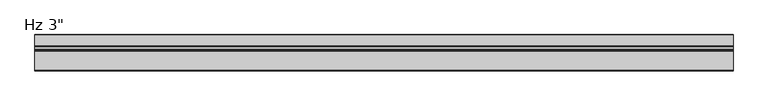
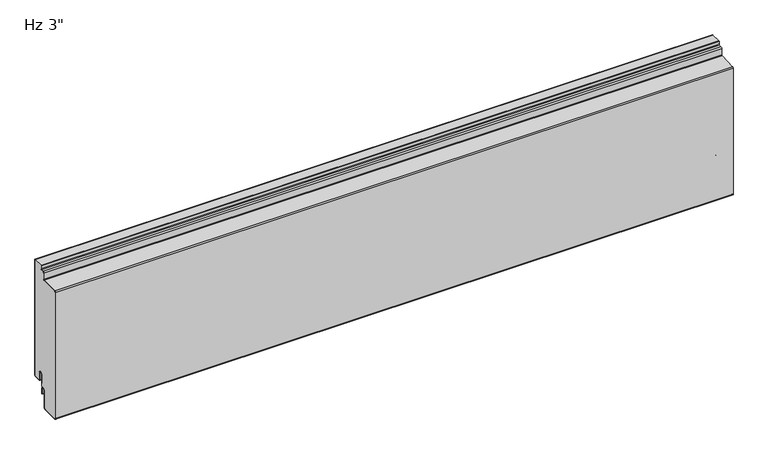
"""IFC4 building model written with IfcOpenShell, lengths in millimetres: plate geometry."""

from ifc_helpers import new_model, si_unit, point, frame, frame_2d, origin, place, context, project, spatial, polyline, circle_curve, trimmed, segment, composite_curve, outline, extrude, source, transform, mapped, element, save
from ifc_brep_helpers import plane_surface, cylinder_surface, revolved_surface, advanced_brep


def plate_ff97e2ff(model_context):
    return source(origin(), model_context, "Body", "SolidModel", [
        extrude(outline(composite_curve([segment(polyline([(-22.8122051, 259.7620957), (-22.8122051, 266.4), (-0.9997051, 266.4), (-0.9997051, 3.175)]), True, "CONTINUOUS"), segment(trimmed(circle_curve(frame_2d((-2.3809551, 3.175)), 1.38125), [point((-0.9997051, 3.175))], [point((-2.3809551, 1.79375))], False, "CARTESIAN"), True, "CONTINUOUS"), segment(polyline([(-2.3809551, 1.79375), (-15.0809548, 1.79375)]), True, "CONTINUOUS"), segment(trimmed(circle_curve(frame_2d((-15.0809548, 3.175)), 1.38125), [point((-15.0809548, 1.79375))], [point((-16.4622048, 3.175))], False, "CARTESIAN"), True, "CONTINUOUS"), segment(polyline([(-16.4622048, 3.175), (-16.4622048, 19.05)]), True, "CONTINUOUS"), segment(trimmed(circle_curve(frame_2d((-21.4309548, 19.05)), 4.96875), [point((-16.4622048, 19.05))], [point((-26.3997048, 19.05))], True, "CARTESIAN"), True, "CONTINUOUS"), segment(polyline([(-26.3997048, 19.05), (-26.3997048, -6.9378562), (-30.952521, -6.9378562)]), True, "CONTINUOUS"), segment(trimmed(circle_curve(frame_2d((-30.952521, -11.9060719)), 4.9682158), [point((-30.952521, -6.9378562))], [point((-35.9207368, -11.9060719))], True, "CARTESIAN"), True, "CONTINUOUS"), segment(polyline([(-35.9207368, -11.9060719), (-35.9207368, -49.8864779)]), True, "CONTINUOUS"), segment(trimmed(circle_curve(frame_2d((-37.3041083, -49.8864779)), 1.3833715), [point((-35.9207368, -49.8864779))], [point((-37.2046907, -51.2662724))], False, "CARTESIAN"), True, "CONTINUOUS"), segment(polyline([(-37.2046907, -51.2662724), (-73.8625914, -51.8500263)]), True, "CONTINUOUS"), segment(trimmed(circle_curve(frame_2d((-73.8185889, -50.4693162)), 1.3814111), [point((-73.8625914, -51.8500263))], [point((-75.2, -50.4693162))], False, "CARTESIAN"), True, "CONTINUOUS"), segment(polyline([(-75.2, -50.4693162), (-75.2, 236.8593805)]), True, "CONTINUOUS"), segment(trimmed(circle_curve(frame_2d((-73.8180277, 236.8593805)), 1.3819723), [point((-75.2, 236.8593805))], [point((-73.9050684, 238.2386091))], False, "CARTESIAN"), True, "CONTINUOUS"), segment(polyline([(-73.9050684, 238.2386091), (-34.8138889, 238.9809457)]), True, "CONTINUOUS"), segment(trimmed(circle_curve(frame_2d((-34.9308757, 241.5793906)), 2.601077), [point((-34.8138889, 238.9809457))], [point((-32.3297987, 241.5793906))], True, "CARTESIAN"), True, "CONTINUOUS"), segment(polyline([(-32.3297987, 241.5793906), (-32.3297987, 255.4979098)]), True, "CONTINUOUS"), segment(trimmed(circle_curve(frame_2d((-30.9520524, 255.4979098)), 1.3777463), [point((-32.3297987, 255.4979098))], [point((-31.0261331, 256.873663))], False, "CARTESIAN"), True, "CONTINUOUS"), segment(polyline([(-31.0261331, 256.873663), (-25.2631616, 257.1782012)]), True, "CONTINUOUS"), segment(trimmed(circle_curve(frame_2d((-25.3997048, 259.7620957)), 2.5874998), [point((-25.2631616, 257.1782012))], [point((-22.8122051, 259.7620957))], True, "CARTESIAN"), True, "CONTINUOUS")], self_intersect=False)), frame((-730.0, 0.0, 0.0), z_axis=(1.0, 0.0, 0.0), x_axis=(0.0, 1.0, 0.0)), (0.0, 0.0, 1.0), 1460.0),
        extrude(outline(composite_curve([segment(polyline([(-25.4, 0.79375), (-26.4, 0.79375), (-26.4, 19.05)]), True, "CONTINUOUS"), segment(trimmed(circle_curve(frame_2d((-21.43125, 19.05)), 4.96875), [point((-26.4, 19.05))], [point((-16.4625, 19.05))], False, "CARTESIAN"), True, "CONTINUOUS"), segment(polyline([(-16.4625, 19.05), (-16.4625, 3.175)]), True, "CONTINUOUS"), segment(trimmed(circle_curve(frame_2d((-15.08125, 3.175)), 1.38125), [point((-16.4625, 3.175))], [point((-15.08125, 1.79375))], True, "CARTESIAN"), True, "CONTINUOUS"), segment(polyline([(-15.08125, 1.79375), (-2.38125, 1.79375)]), True, "CONTINUOUS"), segment(trimmed(circle_curve(frame_2d((-2.38125, 3.175)), 1.38125), [point((-2.38125, 1.79375))], [point((-1.0, 3.175))], True, "CARTESIAN"), True, "CONTINUOUS"), segment(polyline([(-1.0, 3.175), (-1.0, 266.4), (0.0, 266.4), (0.0, 3.175)]), True, "CONTINUOUS"), segment(trimmed(circle_curve(frame_2d((-2.38125, 3.175)), 2.38125), [point((0.0, 3.175))], [point((-2.38125, 0.79375))], False, "CARTESIAN"), True, "CONTINUOUS"), segment(polyline([(-2.38125, 0.79375), (-15.08125, 0.79375)]), True, "CONTINUOUS"), segment(trimmed(circle_curve(frame_2d((-15.08125, 3.175)), 2.38125), [point((-15.08125, 0.79375))], [point((-17.4625, 3.175))], False, "CARTESIAN"), True, "CONTINUOUS"), segment(polyline([(-17.4625, 3.175), (-17.4625, 19.05)]), True, "CONTINUOUS"), segment(trimmed(circle_curve(frame_2d((-21.43125, 19.05)), 3.96875), [point((-17.4625, 19.05))], [point((-25.4, 19.05))], True, "CARTESIAN"), True, "CONTINUOUS"), segment(polyline([(-25.4, 19.05), (-25.4, 0.79375)]), True, "CONTINUOUS")], self_intersect=False)), frame((-730.0, 0.0, 0.0), z_axis=(1.0, 0.0, 0.0), x_axis=(0.0, 1.0, 0.0)), (0.0, 0.0, 1.0), 1460.0),
        advanced_brep(
        [(-730.0, -25.4, -23.2171875), (-730.0, -26.9875, -23.2171875), (-730.0, -26.9875, -11.90625), (-730.0, -34.9235365, -11.90625), (-730.0, -34.9235365, -49.8867763), (-730.0, -37.180907, -52.2655484), (-730.0, -73.8674722, -52.8501201), (-730.0, -76.2, -50.4693686), (-730.0, -76.2, 236.8615956), (-730.0, -73.943409, 239.2395804), (-730.0, -34.8409333, 239.9568264), (-730.0, -33.335518, 241.5432031), (-730.0, -33.335518, 255.4970298), (-730.0, -31.080058, 257.8740657), (-730.0, -25.3167321, 258.176781), (-730.0, -23.8125, 259.7620957), (-730.0, -23.8125, 266.4), (-730.0, -22.8125, 266.4), (-730.0, -22.8125, 259.7620957), (-730.0, -25.2643108, 257.178156), (-730.0, -31.0277025, 256.8755067), (-730.0, -32.3357231, 255.4969966), (-730.0, -32.3357231, 241.5432226), (-730.0, -34.8077585, 238.9573879), (-730.0, -73.9057453, 238.2401033), (-730.0, -75.2, 236.8615956), (-730.0, -75.2, -50.4693686), (-730.0, -73.730714, -51.8478244), (-730.0, -37.2049859, -51.2662724), (-730.0, -35.9213722, -49.9171557), (-730.0, -35.9213722, -11.90625), (-730.0, -25.9875, -11.90625), (-730.0, -26.19375, -13.49375), (-730.0, -25.4, -13.49375), (730.0, -25.4, -23.2171875), (730.0, -25.4, -13.49375), (730.0, -26.19375, -13.49375), (730.0, -25.9875, -11.90625), (730.0, -35.9213722, -11.90625), (730.0, -35.9213722, -49.9171557), (730.0, -37.2049859, -51.2662724), (730.0, -73.8628015, -51.8499275), (730.0, -75.1999873, -50.4693656), (730.0, -75.2, 236.8615956), (730.0, -73.9057453, 238.2401033), (730.0, -34.8077585, 238.9573879), (730.0, -32.3357231, 241.5432226), (730.0, -32.3357231, 255.4969966), (730.0, -31.0277025, 256.8755067), (730.0, -25.2643108, 257.178156), (730.0, -22.8125, 259.7620957), (730.0, -22.8125, 266.4), (730.0, -23.8125, 266.4), (730.0, -23.8125, 259.7620957), (730.0, -25.3167321, 258.176781), (730.0, -31.080058, 257.8740657), (730.0, -33.335518, 255.4970298), (730.0, -33.335518, 241.5432031), (730.0, -34.8409333, 239.9568264), (730.0, -73.943409, 239.2395804), (730.0, -76.2, 236.8615956), (730.0, -76.2, -50.4693686), (730.0, -73.8674722, -52.8501201), (730.0, -37.180907, -52.2655484), (730.0, -34.9235365, -49.8867763), (730.0, -34.9235365, -11.90625), (730.0, -26.9875, -11.90625), (730.0, -26.9875, -23.2171875)],
        [
            (0, 1, circle_curve(frame((-730.0, -26.19375, -23.2171875), z_axis=(-1.0, 0.0, 0.0), x_axis=(0.0, 0.0, -1.0)), 0.79375)),
            (1, 2),
            (2, 3, circle_curve(frame((-730.0, -30.9555183, -11.90625), z_axis=(1.0, 0.0, 0.0), x_axis=(0.0, 0.0, -1.0)), 3.9680183)),
            (3, 4),
            (4, 5, circle_curve(frame((-730.0, -37.3055732, -49.8867763), z_axis=(-1.0, 0.0, 0.0), x_axis=(0.0, 0.0, -1.0)), 2.3820366)),
            (5, 6),
            (6, 7, circle_curve(frame((-730.0, -73.81875, -50.4693686), z_axis=(-1.0, 0.0, 0.0), x_axis=(0.0, 0.0, -1.0)), 2.38125)),
            (7, 8),
            (8, 9, circle_curve(frame((-730.0, -73.81875, 236.8615956), z_axis=(-1.0, 0.0, 0.0), x_axis=(0.0, 0.0, -1.0)), 2.38125)),
            (9, 10),
            (10, 11, circle_curve(frame((-730.0, -34.9240718, 241.5432031), z_axis=(1.0, 0.0, 0.0), x_axis=(0.0, 0.0, -1.0)), 1.5885537)),
            (11, 12),
            (12, 13, circle_curve(frame((-730.0, -30.9552056, 255.4970298), z_axis=(-1.0, 0.0, 0.0), x_axis=(0.0, 0.0, -1.0)), 2.3803125)),
            (13, 14),
            (14, 15, circle_curve(frame((-730.0, -25.4, 259.7620957), z_axis=(1.0, 0.0, 0.0), x_axis=(0.0, 0.0, -1.0)), 1.5875)),
            (15, 16),
            (16, 17),
            (17, 18),
            (18, 19, circle_curve(frame((-730.0, -25.4, 259.7620957), z_axis=(-1.0, 0.0, 0.0), x_axis=(0.0, 0.0, -1.0)), 2.5875)),
            (19, 20),
            (20, 21, circle_curve(frame((-730.0, -30.9553137, 255.4969966), z_axis=(1.0, 0.0, 0.0), x_axis=(0.0, 0.0, -1.0)), 1.3804094)),
            (21, 22),
            (22, 23, circle_curve(frame((-730.0, -34.9241772, 241.5432226), z_axis=(-1.0, 0.0, 0.0), x_axis=(0.0, 0.0, -1.0)), 2.5884541)),
            (23, 24),
            (24, 25, circle_curve(frame((-730.0, -73.81875, 236.8615956), z_axis=(1.0, 0.0, 0.0), x_axis=(0.0, 0.0, -1.0)), 1.38125)),
            (25, 26),
            (26, 27, circle_curve(frame((-730.0, -73.8187219, -50.4693656), z_axis=(1.0, 0.0, 0.0), x_axis=(0.0, 0.0, -1.0)), 1.3812654)),
            (27, 28),
            (28, 29, circle_curve(frame((-730.0, -37.3044035, -49.8864779), z_axis=(1.0, 0.0, 0.0), x_axis=(0.0, 0.0, -1.0)), 1.3833715)),
            (29, 30),
            (30, 31, circle_curve(frame((-730.0, -30.9544361, -11.90625), z_axis=(-1.0, 0.0, 0.0), x_axis=(0.0, 0.0, -1.0)), 4.9669361)),
            (31, 32),
            (32, 33),
            (33, 0),
            (34, 35),
            (35, 36),
            (36, 37),
            (37, 38, circle_curve(frame((730.0, -30.9544361, -11.90625), z_axis=(1.0, 0.0, 0.0), x_axis=(0.0, 0.0, -1.0)), 4.9669361)),
            (38, 39),
            (39, 40, circle_curve(frame((730.0, -37.3044035, -49.8864779), z_axis=(-1.0, 0.0, 0.0), x_axis=(0.0, 0.0, -1.0)), 1.3833715)),
            (40, 41),
            (41, 42, circle_curve(frame((730.0, -73.8187219, -50.4693656), z_axis=(-1.0, 0.0, 0.0), x_axis=(0.0, 0.0, -1.0)), 1.3812654)),
            (42, 43),
            (43, 44, circle_curve(frame((730.0, -73.81875, 236.8615956), z_axis=(-1.0, 0.0, 0.0), x_axis=(0.0, 0.0, -1.0)), 1.38125)),
            (44, 45),
            (45, 46, circle_curve(frame((730.0, -34.9241772, 241.5432226), z_axis=(1.0, 0.0, 0.0), x_axis=(0.0, 0.0, -1.0)), 2.5884541)),
            (46, 47),
            (47, 48, circle_curve(frame((730.0, -30.9553137, 255.4969966), z_axis=(-1.0, 0.0, 0.0), x_axis=(0.0, 0.0, -1.0)), 1.3804094)),
            (48, 49),
            (49, 50, circle_curve(frame((730.0, -25.4, 259.7620957), z_axis=(1.0, 0.0, 0.0), x_axis=(0.0, 0.0, -1.0)), 2.5875)),
            (50, 51),
            (51, 52),
            (52, 53),
            (53, 54, circle_curve(frame((730.0, -25.4, 259.7620957), z_axis=(-1.0, 0.0, 0.0), x_axis=(0.0, 0.0, -1.0)), 1.5875)),
            (54, 55),
            (55, 56, circle_curve(frame((730.0, -30.9552056, 255.4970298), z_axis=(1.0, 0.0, 0.0), x_axis=(0.0, 0.0, -1.0)), 2.3803125)),
            (56, 57),
            (57, 58, circle_curve(frame((730.0, -34.9240718, 241.5432031), z_axis=(-1.0, 0.0, 0.0), x_axis=(0.0, 0.0, -1.0)), 1.5885537)),
            (58, 59),
            (59, 60, circle_curve(frame((730.0, -73.81875, 236.8615956), z_axis=(1.0, 0.0, 0.0), x_axis=(0.0, 0.0, -1.0)), 2.38125)),
            (60, 61),
            (61, 62, circle_curve(frame((730.0, -73.81875, -50.4693686), z_axis=(1.0, 0.0, 0.0), x_axis=(0.0, 0.0, -1.0)), 2.38125)),
            (62, 63),
            (63, 64, circle_curve(frame((730.0, -37.3055732, -49.8867763), z_axis=(1.0, 0.0, 0.0), x_axis=(0.0, 0.0, -1.0)), 2.3820366)),
            (64, 65),
            (65, 66, circle_curve(frame((730.0, -30.9555183, -11.90625), z_axis=(-1.0, 0.0, 0.0), x_axis=(0.0, 0.0, -1.0)), 3.9680183)),
            (66, 67),
            (67, 34, circle_curve(frame((730.0, -26.19375, -23.2171875), z_axis=(1.0, 0.0, 0.0), x_axis=(0.0, 0.0, -1.0)), 0.79375)),
            (16, 52),
            (51, 17),
            (1, 67),
            (66, 2),
            (65, 3),
            (64, 4),
            (5, 63),
            (62, 6),
            (33, 35),
            (34, 0),
            (25, 43),
            (42, 26),
            (61, 7),
            (60, 8),
            (28, 40),
            (39, 29),
            (27, 41),
            (32, 36),
            (31, 37),
            (38, 30),
            (9, 59),
            (58, 10),
            (11, 57),
            (56, 12),
            (24, 44),
            (22, 46),
            (45, 23),
            (21, 47),
            (55, 13),
            (54, 14),
            (53, 15),
            (20, 48),
            (18, 50),
            (49, 19),
        ],
        [
            plane_surface(frame((-730.0, -76.2, 152.4), z_axis=(-1.0, 0.0, 0.0), x_axis=(0.0, -1.0, 0.0))),
            plane_surface(frame((730.0, -76.2, 152.4), z_axis=(1.0, 0.0, 0.0), x_axis=(0.0, -1.0, 0.0))),
            plane_surface(frame((730.0, 10.0, 266.4), z_axis=(0.0, 0.0, 1.0), x_axis=(-1.0, 0.0, 0.0))),
            plane_surface(frame((-730.0, -26.9875, -11.90625), z_axis=(0.0, -1.0, 0.0), x_axis=(1.0, 0.0, 0.0))),
            revolved_surface(polyline([(730.0, -30.9555183, -15.8742683), (-730.0, -30.9555183, -15.8742683)]), (-730.0, -30.9555183, -11.90625), (1.0, 0.0, 0.0)),
            plane_surface(frame((-730.0, -34.9235365, -49.8867763), z_axis=(0.0, 1.0, 0.0), x_axis=(1.0, 0.0, 0.0))),
            plane_surface(frame((-730.0, -73.8674722, -52.8501201), z_axis=(0.0, 0.015932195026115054, -0.999873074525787), x_axis=(1.0, 0.0, 0.0))),
            plane_surface(frame((-730.0, -25.4, -23.2171875), z_axis=(0.0, 1.0, 0.0), x_axis=(1.0, 0.0, 0.0))),
            cylinder_surface(frame((-730.0, -26.19375, -23.2171875), z_axis=(-1.0, 0.0, 0.0), x_axis=(0.0, 0.0, -1.0)), 0.79375),
            plane_surface(frame((-730.0, -75.2, -50.4693686), z_axis=(0.0, 1.0, 0.0), x_axis=(1.0, 0.0, 0.0))),
            cylinder_surface(frame((-730.0, -73.81875, -50.4693686), z_axis=(-1.0, 0.0, 0.0), x_axis=(0.0, 0.0, -1.0)), 2.38125),
            plane_surface(frame((-730.0, -76.2, 236.8615956), z_axis=(0.0, -1.0, 0.0), x_axis=(1.0, 0.0, 0.0))),
            revolved_surface(polyline([(730.0, -37.3044035, -51.269849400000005), (-730.0, -37.3044035, -51.269849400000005)]), (-730.0, -37.3044035, -49.8864779), (1.0, 0.0, 0.0)),
            plane_surface(frame((-730.0, -37.2049859, -51.2662724), z_axis=(0.0, -0.015919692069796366, 0.9998732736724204), x_axis=(1.0, 0.0, 0.0))),
            revolved_surface(polyline([(730.0, -73.8187219, -51.850631), (-730.0, -73.8187219, -51.850631)]), (-730.0, -73.8187219, -50.4693656), (1.0, 0.0, 0.0)),
            cylinder_surface(frame((-730.0, -37.3055732, -49.8867763), z_axis=(-1.0, 0.0, 0.0), x_axis=(0.0, 0.0, -1.0)), 2.3820366),
            plane_surface(frame((-730.0, -25.4, -13.49375), z_axis=(0.0, 0.0, 1.0), x_axis=(1.0, 0.0, 0.0))),
            plane_surface(frame((-730.0, -26.19375, -13.49375), z_axis=(0.0, 0.9916655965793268, -0.1288384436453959), x_axis=(1.0, 0.0, 0.0))),
            plane_surface(frame((-730.0, -35.9213722, -11.90625), z_axis=(0.0, -1.0, 0.0), x_axis=(1.0, 0.0, 0.0))),
            cylinder_surface(frame((-730.0, -30.9544361, -11.90625), z_axis=(-1.0, 0.0, 0.0), x_axis=(0.0, 0.0, -1.0)), 4.9669361),
            plane_surface(frame((-730.0, -34.8409333, 239.9568264), z_axis=(0.0, -0.01833964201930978, 0.9998318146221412), x_axis=(1.0, 0.0, 0.0))),
            plane_surface(frame((-730.0, -33.335518, 255.4970298), z_axis=(0.0, -1.0, 0.0), x_axis=(1.0, 0.0, 0.0))),
            cylinder_surface(frame((-730.0, -73.81875, 236.8615956), z_axis=(-1.0, 0.0, 0.0), x_axis=(0.0, 0.0, -1.0)), 2.38125),
            revolved_surface(polyline([(730.0, -73.81875, 235.4803456), (-730.0, -73.81875, 235.4803456)]), (-730.0, -73.81875, 236.8615956), (1.0, 0.0, 0.0)),
            cylinder_surface(frame((-730.0, -34.9241772, 241.5432226), z_axis=(-1.0, 0.0, 0.0), x_axis=(0.0, 0.0, -1.0)), 2.5884541),
            plane_surface(frame((-730.0, -73.9057453, 238.2401033), z_axis=(0.0, 0.018342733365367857, -0.9998317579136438), x_axis=(1.0, 0.0, 0.0))),
            revolved_surface(polyline([(730.0, -34.9240718, 239.9546494), (-730.0, -34.9240718, 239.9546494)]), (-730.0, -34.9240718, 241.5432031), (1.0, 0.0, 0.0)),
            plane_surface(frame((-730.0, -32.3357231, 241.5432226), z_axis=(0.0, 1.0, 0.0), x_axis=(1.0, 0.0, 0.0))),
            cylinder_surface(frame((-730.0, -30.9552056, 255.4970298), z_axis=(-1.0, 0.0, 0.0), x_axis=(0.0, 0.0, -1.0)), 2.3803125),
            plane_surface(frame((-730.0, -25.3167321, 258.176781), z_axis=(0.0, -0.05245211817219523, 0.9986234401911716), x_axis=(1.0, 0.0, 0.0))),
            revolved_surface(polyline([(730.0, -25.4, 258.1745957), (-730.0, -25.4, 258.1745957)]), (-730.0, -25.4, 259.7620957), (1.0, 0.0, 0.0)),
            plane_surface(frame((-730.0, -23.8125, 274.6375), z_axis=(0.0, -1.0, 0.0), x_axis=(1.0, 0.0, 0.0))),
            revolved_surface(polyline([(730.0, -30.9553137, 254.1165872), (-730.0, -30.9553137, 254.1165872)]), (-730.0, -30.9553137, 255.4969966), (1.0, 0.0, 0.0)),
            cylinder_surface(frame((-730.0, -25.4, 259.7620957), z_axis=(-1.0, 0.0, 0.0), x_axis=(0.0, 0.0, -1.0)), 2.5875),
            plane_surface(frame((-730.0, -31.0277025, 256.8755067), z_axis=(0.0, 0.05244010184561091, -0.9986240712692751), x_axis=(1.0, 0.0, 0.0))),
            plane_surface(frame((-730.0, -22.8125, 259.7620957), z_axis=(0.0, 1.0, 0.0), x_axis=(1.0, 0.0, 0.0))),
        ],
        [
            (0, [[1, 2, 3, 4, 5, 6, 7, 8, 9, 10, 11, 12, 13, 14, 15, 16, 17, 18, 19, 20, 21, 22, 23, 24, 25, 26, 27, 28, 29, 30, 31, 32, 33, 34]]),
            (1, [[35, 36, 37, 38, 39, 40, 41, 42, 43, 44, 45, 46, 47, 48, 49, 50, 51, 52, 53, 54, 55, 56, 57, 58, 59, 60, 61, 62, 63, 64, 65, 66, 67, 68]]),
            (2, [[69, -52, 70, -17]]),
            (3, [[71, -67, 72, -2]]),
            (4, [[-72, -66, 73, -3]]),
            (5, [[-73, -65, 74, -4]]),
            (6, [[75, -63, 76, -6]]),
            (7, [[77, -35, 78, -34]]),
            (8, [[-78, -68, -71, -1]]),
            (9, [[79, -43, 80, -26]]),
            (10, [[-76, -62, 81, -7]]),
            (11, [[-81, -61, 82, -8]]),
            (12, [[83, -40, 84, -29]]),
            (13, [[85, -41, -83, -28]]),
            (14, [[-80, -42, -85, -27]]),
            (15, [[-74, -64, -75, -5]]),
            (16, [[86, -36, -77, -33]]),
            (17, [[87, -37, -86, -32]]),
            (18, [[-84, -39, 88, -30]]),
            (19, [[-88, -38, -87, -31]]),
            (20, [[89, -59, 90, -10]]),
            (21, [[91, -57, 92, -12]]),
            (22, [[-82, -60, -89, -9]]),
            (23, [[93, -44, -79, -25]]),
            (24, [[94, -46, 95, -23]]),
            (25, [[-95, -45, -93, -24]]),
            (26, [[-90, -58, -91, -11]]),
            (27, [[96, -47, -94, -22]]),
            (28, [[-92, -56, 97, -13]]),
            (29, [[-97, -55, 98, -14]]),
            (30, [[-98, -54, 99, -15]]),
            (31, [[-53, -69, -16, -99]]),
            (32, [[100, -48, -96, -21]]),
            (33, [[101, -50, 102, -19]]),
            (34, [[-102, -49, -100, -20]]),
            (35, [[-18, -70, -51, -101]]),
        ],
    ),
    ])


if __name__ == "__main__":
    model = new_model("IFC4")
    model_context = context("Model", 3, world=origin())
    ifc_project = project(units=[si_unit("LENGTHUNIT", "METRE", prefix="MILLI")], contexts=[model_context])
    site = spatial("IfcSite", under=ifc_project)
    building = spatial("IfcBuilding", under=site)
    placement = place(None, origin())
    plate_shape = plate_ff97e2ff(model_context)
    element("IfcPlate", 1, ObjectType="KIP-12-DWDJ-R19-CP-Hz-F : Hz 3\"", at=placement, inside=building, context=model_context, shape_type="MappedRepresentation", body=[
        mapped(plate_shape, transform((0.0, 0.0, 0.0), x_axis=(1.0, 0.0, 0.0), y_axis=(0.0, 1.0, 0.0), z_axis=(0.0, 0.0, 1.0))),
    ])
    save(model, "model.ifc")
